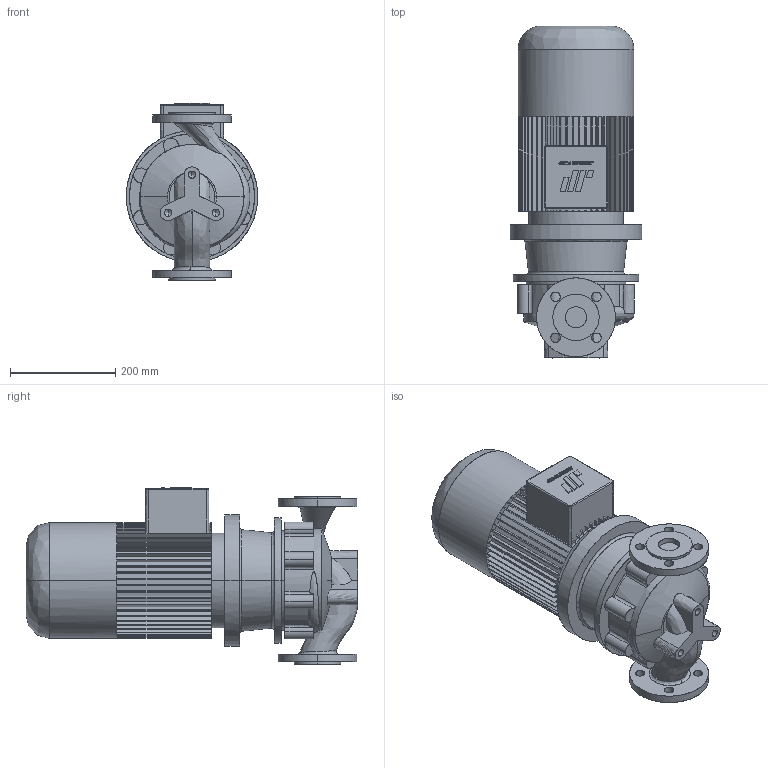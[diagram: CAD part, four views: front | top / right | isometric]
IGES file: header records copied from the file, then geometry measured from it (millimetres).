
Start section: CombiLine
Global section: file name: CLB_40-160_IEC112M_ND10.igs; native system:  By UGS Corp.; preprocessor: XPlus GENERIC/IGES 3.0; author: Stageplaats; organization: Johnson Pump Water B.V.; date: 20070716.105527; units: millimetre
Bounding box: 250 x 631 x 337 mm (x, y, z)
Surface area: 892707.2 mm2 (no closed solid volume)
Topology: 0 solids, 0 shells, 544 faces, 3315 edges, 3309 vertices
Faces by surface type: bspline 544
